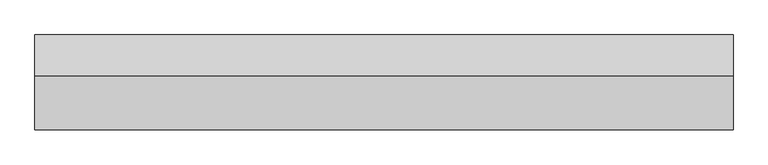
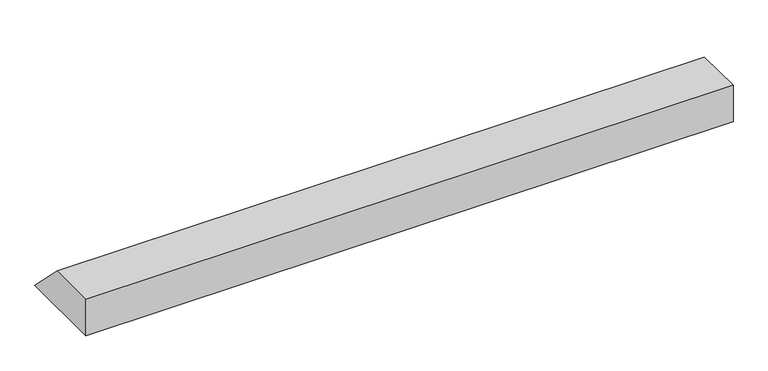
"""IFC4 building model written with IfcOpenShell, lengths in millimetres: proxy geometry, Gousset radier bord droit : Gousset radier bord droit."""

import ifcopenshell
import ifcopenshell.guid

model = None  # the IFC model being written
_history = None  # IfcOwnerHistory: only IFC2X3 demands one
_inside = {}  # id of a spatial element -> (the spatial element, [elements in it])
_under = {}  # id of a project, library or spatial element -> (it, [spatial elements below it])
_declared = {}  # id of a project -> (the project, [libraries it declares])
_typed = {}  # id of a type object -> (the type object, [elements of that type])
_made_of = {}  # id of a material, layer set ... -> (it, [elements and type objects made of it])


def new_model(schema):
    """Start an empty IFC model of exactly this schema.

    Asked for "IFC4X3", IfcOpenShell would pick the latest addendum, in which some entities
    have other attributes; the version numbers below select the first issue.
    IFC2X3 requires an IfcOwnerHistory on every rooted entity: one is made here for all.
    """
    global model, _history
    if schema == "IFC4X3":
        model = ifcopenshell.file(schema_version=(4, 3, 0, 0))
    else:
        model = ifcopenshell.file(schema=schema)
    _inside.clear()
    _under.clear()
    _declared.clear()
    _typed.clear()
    _made_of.clear()
    _history = None
    if model.schema == "IFC2X3":
        org = make("IfcOrganization", Name="unknown")
        user = make(
            "IfcPersonAndOrganization",
            ThePerson=make("IfcPerson", FamilyName="unknown"),
            TheOrganization=org,
        )
        app = make(
            "IfcApplication",
            ApplicationDeveloper=org,
            Version="unknown",
            ApplicationFullName="unknown",
            ApplicationIdentifier="unknown",
        )
        _history = make(
            "IfcOwnerHistory",
            OwningUser=user,
            OwningApplication=app,
            ChangeAction="ADDED",
            CreationDate=0,
        )
    return model


def make(cls, **values):
    """One entity of the class cls with the attributes given. An attribute that is None is left unset."""
    return model.create_entity(
        cls, **{name: value for name, value in values.items() if value is not None}
    )


def rooted(cls, **values):
    """An entity with a GlobalId (a new one), such as an element, a storey or a relation."""
    return make(cls, GlobalId=ifcopenshell.guid.new(), OwnerHistory=_history, **values)


def si_unit(unit_type, name, prefix=None):
    """IfcSIUnit, for example si_unit("LENGTHUNIT", "METRE", prefix="MILLI")."""
    return make("IfcSIUnit", UnitType=unit_type, Prefix=prefix, Name=name)


def assignment(units):
    """IfcUnitAssignment: the units of a project."""
    return None if units is None else make("IfcUnitAssignment", Units=units)


def point(xyz):
    """IfcCartesianPoint."""
    return None if xyz is None else make("IfcCartesianPoint", Coordinates=xyz)


def direction(xyz):
    """IfcDirection."""
    return None if xyz is None else make("IfcDirection", DirectionRatios=xyz)


def frame(location, z_axis=None, x_axis=None):
    """IfcAxis2Placement3D, a coordinate frame: its origin and axes. An axis left out is left unset."""
    return make(
        "IfcAxis2Placement3D",
        Location=point(location),
        Axis=direction(z_axis),
        RefDirection=direction(x_axis),
    )


def origin():
    """The frame at (0, 0, 0) with its axes left unset."""
    return frame((0.0, 0.0, 0.0))


def place(relative_to, where):
    """IfcLocalPlacement: puts the frame where relative to a parent placement (None: the world)."""
    return make(
        "IfcLocalPlacement", PlacementRelTo=relative_to, RelativePlacement=where
    )


def context(
    kind, dimensions, precision=None, world=None, true_north=None, identifier=None
):
    """IfcGeometricRepresentationContext, for example the 3D "Model" context."""
    return make(
        "IfcGeometricRepresentationContext",
        ContextIdentifier=identifier,
        ContextType=kind,
        CoordinateSpaceDimension=dimensions,
        Precision=precision,
        WorldCoordinateSystem=world,
        TrueNorth=true_north,
    )


def project(units=None, contexts=None):
    """IfcProject with its units and contexts."""
    return rooted(
        "IfcProject",
        Name="project",
        RepresentationContexts=contexts,
        UnitsInContext=assignment(units),
    )


def spatial(cls, under=None, at=None, **own):
    """A site, building, storey or space (cls), placed at a placement, below another one or the project."""
    s = rooted(cls, ObjectPlacement=at, **own)
    if under is not None:
        _under.setdefault(under.id(), (under, []))[1].append(s)
    return s


def polyline(points):
    """IfcPolyline through the points."""
    return make("IfcPolyline", Points=[point(p) for p in points])


def outline(outer, holes=None, kind="AREA"):
    """IfcArbitraryClosedProfileDef: a profile drawn as a closed curve; with holes, ...WithVoids."""
    if holes is None:
        return make("IfcArbitraryClosedProfileDef", ProfileType=kind, OuterCurve=outer)
    return make(
        "IfcArbitraryProfileDefWithVoids",
        ProfileType=kind,
        OuterCurve=outer,
        InnerCurves=holes,
    )


def extrude(swept, where, along, depth):
    """IfcExtrudedAreaSolid: the profile swept, set in the frame where, extruded along a direction by depth."""
    return make(
        "IfcExtrudedAreaSolid",
        SweptArea=swept,
        Position=where,
        ExtrudedDirection=direction(along),
        Depth=depth,
    )


def shape(context_of_items, identifier, shape_type, items):
    """IfcShapeRepresentation: the items that make up one representation, for example the "Body"."""
    return make(
        "IfcShapeRepresentation",
        ContextOfItems=context_of_items,
        RepresentationIdentifier=identifier,
        RepresentationType=shape_type,
        Items=items,
    )


def source(mapping_origin, context_of_items, identifier, shape_type, items):
    """IfcRepresentationMap: a shape defined once, which mapped items show again and again."""
    return make(
        "IfcRepresentationMap",
        MappingOrigin=mapping_origin,
        MappedRepresentation=shape(context_of_items, identifier, shape_type, items),
    )


def transform(
    local_origin,
    x_axis=None,
    y_axis=None,
    z_axis=None,
    scale=None,
    scale2=None,
    scale3=None,
    uniform=True,
):
    """IfcCartesianTransformationOperator3D, or its non-uniform kind. x_axis, y_axis, z_axis: its Axis1, 2, 3."""
    if uniform:
        return make(
            "IfcCartesianTransformationOperator3D",
            Axis1=direction(x_axis),
            Axis2=direction(y_axis),
            LocalOrigin=point(local_origin),
            Scale=scale,
            Axis3=direction(z_axis),
        )
    return make(
        "IfcCartesianTransformationOperator3DnonUniform",
        Axis1=direction(x_axis),
        Axis2=direction(y_axis),
        LocalOrigin=point(local_origin),
        Scale=scale,
        Axis3=direction(z_axis),
        Scale2=scale2,
        Scale3=scale3,
    )


def mapped(mapping_source, mapping_target):
    """IfcMappedItem: shows the shape of a source again, moved by a transform."""
    return make(
        "IfcMappedItem", MappingSource=mapping_source, MappingTarget=mapping_target
    )


def made_of(thing, what):
    """Note that an element or type object is made of a material, layer set ...; save() writes the relation."""
    if what is not None:
        _made_of.setdefault(what.id(), (what, []))[1].append(thing)
    return thing


def element(
    cls,
    number,
    at=None,
    inside=None,
    cuts=None,
    type_object=None,
    material=None,
    context=None,
    identifier="Body",
    shape_type=None,
    held_by="IfcProductDefinitionShape",
    body=None,
    shapes=None,
    **own,
):
    """One element of the class cls, such as IfcWall. Its Tag is "e" and its number.

    at: its placement. inside: the storey or other place that contains it. cuts: it is an
    opening in that element (IfcRelVoidsElement). A single representation is given by context,
    identifier, shape_type and body (its items); several are given by shapes. held_by: the class
    of the entity that holds the representations. save() writes the other relations.
    """
    e = rooted(cls, Tag="e%d" % number, ObjectPlacement=at, **own)
    if body is not None:
        shapes = [shape(context, identifier, shape_type, body)]
    if shapes is not None:
        e.Representation = make(held_by, Representations=shapes)
    if inside is not None:
        _inside.setdefault(inside.id(), (inside, []))[1].append(e)
    if cuts is not None:
        rooted(
            "IfcRelVoidsElement", RelatingBuildingElement=cuts, RelatedOpeningElement=e
        )
    if type_object is not None:
        _typed.setdefault(type_object.id(), (type_object, []))[1].append(e)
    return made_of(e, material)


def aggregate(whole, parts):
    """IfcRelAggregates: a whole, such as a stair, and the parts it consists of."""
    return rooted("IfcRelAggregates", RelatingObject=whole, RelatedObjects=parts)


def save(model, path):
    """Write the relations noted so far, then the file.

    IfcRelAggregates (storeys below a building ...), IfcRelContainedInSpatialStructure (elements
    in a storey), IfcRelDefinesByType, IfcRelAssociatesMaterial and IfcRelDeclares: one each for
    every whole, place, type object, material and project.
    """
    for whole, parts in _under.values():
        aggregate(whole, parts)
    for where, things in _inside.values():
        rooted(
            "IfcRelContainedInSpatialStructure",
            RelatedElements=things,
            RelatingStructure=where,
        )
    for kind, things in _typed.values():
        rooted("IfcRelDefinesByType", RelatedObjects=things, RelatingType=kind)
    for what, things in _made_of.values():
        rooted("IfcRelAssociatesMaterial", RelatedObjects=things, RelatingMaterial=what)
    for by, libraries in _declared.values():
        rooted("IfcRelDeclares", RelatingContext=by, RelatedDefinitions=libraries)
    model.write(path)


def generic_models_5d4a5f9c(model_context):
    return source(origin(), model_context, "Body", "SweptSolid", [
        extrude(outline(polyline([(0.0, 0.0), (0.0, 350.0), (450.0, 350.0), (800.0, 0.0), (0.0, 0.0)])), frame((0.0, 0.0, 0.0), z_axis=(1.0, 0.0, 0.0), x_axis=(0.0, 1.0, 0.0)), (0.0, 0.0, 1.0), 5877.156852),
    ])


if __name__ == "__main__":
    model = new_model("IFC4")
    model_context = context("Model", 3, world=origin())
    ifc_project = project(units=[si_unit("LENGTHUNIT", "METRE", prefix="MILLI")], contexts=[model_context])
    site = spatial("IfcSite", under=ifc_project)
    building = spatial("IfcBuilding", under=site)
    placement = place(None, origin())
    generic_models_shape = generic_models_5d4a5f9c(model_context)
    element("IfcBuildingElementProxy", 1, Name="Gousset radier bord droit : Gousset radier bord droit", ObjectType="Gousset radier bord droit : Gousset radier bord droit", at=placement, inside=building, context=model_context, shape_type="MappedRepresentation", body=[
        mapped(generic_models_shape, transform((0.0, 0.0, 0.0), x_axis=(1.0, 0.0, 0.0), y_axis=(0.0, 1.0, 0.0), z_axis=(0.0, 0.0, 1.0))),
    ])
    save(model, "model.ifc")
